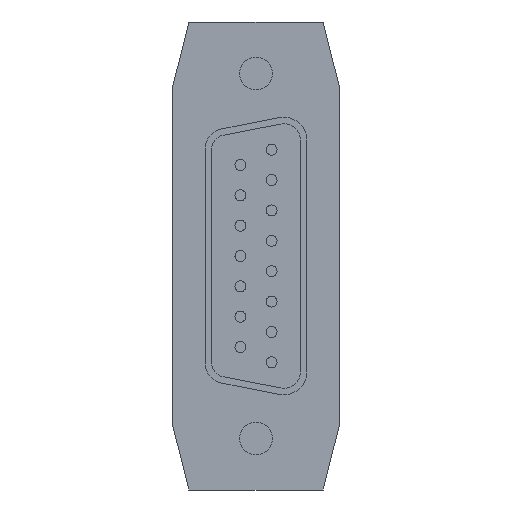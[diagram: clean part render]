
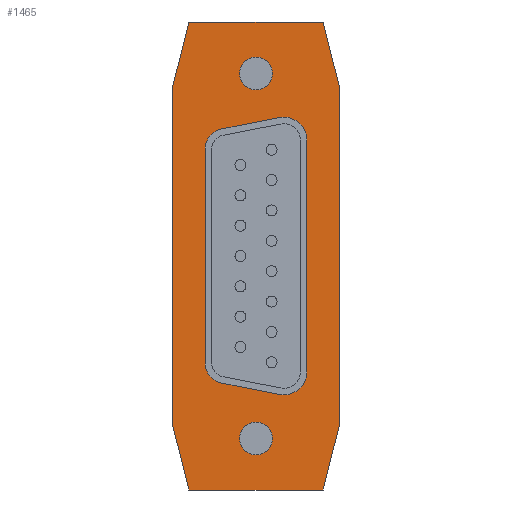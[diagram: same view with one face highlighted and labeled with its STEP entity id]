
A CAD part, left-side view. The second image highlights one B-rep face of the part: STEP entity #1465.
In plain terms, the highlighted planar face has unit normal (-1, 0, 0) as drawn and (0, -1, 0) by its records, which use the part's own axes.
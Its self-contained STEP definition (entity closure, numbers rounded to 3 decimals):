
#52=DIRECTION('',(-0.97,0.,0.243));
#53=VECTOR('',#52,6.082);
#54=CARTESIAN_POINT('',(-15.45,0.,-7.6));
#55=LINE('',#54,#53);
#56=DIRECTION('',(0.,0.,1.));
#57=VECTOR('',#56,12.25);
#58=CARTESIAN_POINT('',(-21.35,0.,-6.125));
#59=LINE('',#58,#57);
#60=DIRECTION('',(0.97,0.,0.243));
#61=VECTOR('',#60,6.082);
#62=CARTESIAN_POINT('',(-21.35,0.,6.125));
#63=LINE('',#62,#61);
#64=DIRECTION('',(1.,0.,0.));
#65=VECTOR('',#64,30.9);
#66=CARTESIAN_POINT('',(-15.45,0.,7.6));
#67=LINE('',#66,#65);
#68=DIRECTION('',(0.97,0.,-0.243));
#69=VECTOR('',#68,6.082);
#70=CARTESIAN_POINT('',(15.45,0.,7.6));
#71=LINE('',#70,#69);
#72=DIRECTION('',(0.,0.,-1.));
#73=VECTOR('',#72,12.25);
#74=CARTESIAN_POINT('',(21.35,0.,6.125));
#75=LINE('',#74,#73);
#76=DIRECTION('',(-0.97,0.,-0.243));
#77=VECTOR('',#76,6.082);
#78=CARTESIAN_POINT('',(21.35,0.,-6.125));
#79=LINE('',#78,#77);
#80=DIRECTION('',(-1.,0.,0.));
#81=VECTOR('',#80,30.9);
#82=CARTESIAN_POINT('',(15.45,0.,-7.6));
#83=LINE('',#82,#81);
#84=DIRECTION('',(0.191,0.,-0.982));
#85=VECTOR('',#84,5.36);
#86=CARTESIAN_POINT('',(-12.628,0.,2.149));
#87=LINE('',#86,#85);
#88=CARTESIAN_POINT('',(-9.74,0.,-2.75));
#89=DIRECTION('',(0.,-1.,0.));
#90=DIRECTION('',(-0.982,0.,-0.191));
#91=AXIS2_PLACEMENT_3D('',#88,#89,#90);
#93=DIRECTION('',(1.,0.,0.));
#94=VECTOR('',#93,19.48);
#95=CARTESIAN_POINT('',(-9.74,0.,-4.65));
#96=LINE('',#95,#94);
#97=CARTESIAN_POINT('',(9.74,0.,-2.75));
#98=DIRECTION('',(0.,-1.,0.));
#99=DIRECTION('',(0.,0.,-1.));
#100=AXIS2_PLACEMENT_3D('',#97,#98,#99);
#102=DIRECTION('',(0.191,0.,0.982));
#103=VECTOR('',#102,5.36);
#104=CARTESIAN_POINT('',(11.605,0.,-3.113));
#105=LINE('',#104,#103);
#106=CARTESIAN_POINT('',(10.566,0.,2.55));
#107=DIRECTION('',(0.,-1.,0.));
#108=DIRECTION('',(0.982,0.,-0.191));
#109=AXIS2_PLACEMENT_3D('',#106,#107,#108);
#111=DIRECTION('',(-1.,0.,0.));
#112=VECTOR('',#111,21.133);
#113=CARTESIAN_POINT('',(10.566,0.,4.65));
#114=LINE('',#113,#112);
#115=CARTESIAN_POINT('',(-10.566,0.,2.55));
#116=DIRECTION('',(0.,-1.,0.));
#117=DIRECTION('',(0.,0.,1.));
#118=AXIS2_PLACEMENT_3D('',#115,#116,#117);
#120=CARTESIAN_POINT('',(-16.65,0.,0.));
#121=DIRECTION('',(0.,1.,0.));
#122=DIRECTION('',(1.,0.,0.));
#123=AXIS2_PLACEMENT_3D('',#120,#121,#122);
#125=CARTESIAN_POINT('',(-16.65,0.,0.));
#126=DIRECTION('',(0.,1.,0.));
#127=DIRECTION('',(-1.,0.,0.));
#128=AXIS2_PLACEMENT_3D('',#125,#126,#127);
#130=CARTESIAN_POINT('',(16.65,0.,0.));
#131=DIRECTION('',(0.,-1.,0.));
#132=DIRECTION('',(-1.,0.,0.));
#133=AXIS2_PLACEMENT_3D('',#130,#131,#132);
#135=CARTESIAN_POINT('',(16.65,0.,0.));
#136=DIRECTION('',(0.,-1.,0.));
#137=DIRECTION('',(1.,0.,0.));
#138=AXIS2_PLACEMENT_3D('',#135,#136,#137);
#1100=CARTESIAN_POINT('',(-15.45,0.,-7.6));
#1101=CARTESIAN_POINT('',(-21.35,0.,-6.125));
#1102=VERTEX_POINT('',#1100);
#1103=VERTEX_POINT('',#1101);
#1104=CARTESIAN_POINT('',(-21.35,0.,6.125));
#1105=VERTEX_POINT('',#1104);
#1106=CARTESIAN_POINT('',(-15.45,0.,7.6));
#1107=VERTEX_POINT('',#1106);
#1108=CARTESIAN_POINT('',(15.45,0.,7.6));
#1109=VERTEX_POINT('',#1108);
#1110=CARTESIAN_POINT('',(21.35,0.,6.125));
#1111=VERTEX_POINT('',#1110);
#1112=CARTESIAN_POINT('',(21.35,0.,-6.125));
#1113=VERTEX_POINT('',#1112);
#1114=CARTESIAN_POINT('',(15.45,0.,-7.6));
#1115=VERTEX_POINT('',#1114);
#1148=CARTESIAN_POINT('',(-12.628,0.,2.149));
#1149=CARTESIAN_POINT('',(-11.605,0.,-3.113));
#1150=VERTEX_POINT('',#1148);
#1151=VERTEX_POINT('',#1149);
#1152=CARTESIAN_POINT('',(-9.74,0.,-4.65));
#1153=CARTESIAN_POINT('',(9.74,0.,-4.65));
#1154=VERTEX_POINT('',#1152);
#1155=VERTEX_POINT('',#1153);
#1156=CARTESIAN_POINT('',(11.605,0.,-3.113));
#1157=CARTESIAN_POINT('',(12.628,0.,2.149));
#1158=VERTEX_POINT('',#1156);
#1159=VERTEX_POINT('',#1157);
#1160=CARTESIAN_POINT('',(10.566,0.,4.65));
#1161=CARTESIAN_POINT('',(-10.566,0.,4.65));
#1162=VERTEX_POINT('',#1160);
#1163=VERTEX_POINT('',#1161);
#1272=CARTESIAN_POINT('',(-15.15,0.,0.));
#1273=CARTESIAN_POINT('',(-18.15,0.,0.));
#1274=VERTEX_POINT('',#1272);
#1275=VERTEX_POINT('',#1273);
#1320=CARTESIAN_POINT('',(15.15,0.,0.));
#1321=CARTESIAN_POINT('',(18.15,0.,0.));
#1322=VERTEX_POINT('',#1320);
#1323=VERTEX_POINT('',#1321);
#1412=CARTESIAN_POINT('',(0.,0.,0.));
#1413=DIRECTION('',(0.,1.,0.));
#1414=DIRECTION('',(1.,0.,0.));
#1415=AXIS2_PLACEMENT_3D('',#1412,#1413,#1414);
#1416=PLANE('',#1415);
#1418=ORIENTED_EDGE('',*,*,#1417,.T.);
#1420=ORIENTED_EDGE('',*,*,#1419,.T.);
#1422=ORIENTED_EDGE('',*,*,#1421,.T.);
#1424=ORIENTED_EDGE('',*,*,#1423,.T.);
#1426=ORIENTED_EDGE('',*,*,#1425,.T.);
#1428=ORIENTED_EDGE('',*,*,#1427,.T.);
#1430=ORIENTED_EDGE('',*,*,#1429,.T.);
#1432=ORIENTED_EDGE('',*,*,#1431,.T.);
#1433=EDGE_LOOP('',(#1418,#1420,#1422,#1424,#1426,#1428,#1430,#1432));
#1434=FACE_OUTER_BOUND('',#1433,.F.);
#1436=ORIENTED_EDGE('',*,*,#1435,.T.);
#1438=ORIENTED_EDGE('',*,*,#1437,.T.);
#1440=ORIENTED_EDGE('',*,*,#1439,.T.);
#1442=ORIENTED_EDGE('',*,*,#1441,.T.);
#1444=ORIENTED_EDGE('',*,*,#1443,.T.);
#1446=ORIENTED_EDGE('',*,*,#1445,.T.);
#1448=ORIENTED_EDGE('',*,*,#1447,.T.);
#1450=ORIENTED_EDGE('',*,*,#1449,.T.);
#1451=EDGE_LOOP('',(#1436,#1438,#1440,#1442,#1444,#1446,#1448,#1450));
#1452=FACE_BOUND('',#1451,.F.);
#1454=ORIENTED_EDGE('',*,*,#1453,.F.);
#1456=ORIENTED_EDGE('',*,*,#1455,.F.);
#1457=EDGE_LOOP('',(#1454,#1456));
#1458=FACE_BOUND('',#1457,.F.);
#1460=ORIENTED_EDGE('',*,*,#1459,.T.);
#1462=ORIENTED_EDGE('',*,*,#1461,.T.);
#1463=EDGE_LOOP('',(#1460,#1462));
#1464=FACE_BOUND('',#1463,.F.);
#1465=ADVANCED_FACE('',(#1434,#1452,#1458,#1464),#1416,.F.);
#92=CIRCLE('',#91,1.9);
#101=CIRCLE('',#100,1.9);
#110=CIRCLE('',#109,2.1);
#119=CIRCLE('',#118,2.1);
#124=CIRCLE('',#123,1.5);
#129=CIRCLE('',#128,1.5);
#134=CIRCLE('',#133,1.5);
#139=CIRCLE('',#138,1.5);
#1417=EDGE_CURVE('',#1102,#1103,#55,.T.);
#1419=EDGE_CURVE('',#1103,#1105,#59,.T.);
#1421=EDGE_CURVE('',#1105,#1107,#63,.T.);
#1423=EDGE_CURVE('',#1107,#1109,#67,.T.);
#1425=EDGE_CURVE('',#1109,#1111,#71,.T.);
#1427=EDGE_CURVE('',#1111,#1113,#75,.T.);
#1429=EDGE_CURVE('',#1113,#1115,#79,.T.);
#1431=EDGE_CURVE('',#1115,#1102,#83,.T.);
#1435=EDGE_CURVE('',#1150,#1151,#87,.T.);
#1437=EDGE_CURVE('',#1151,#1154,#92,.T.);
#1439=EDGE_CURVE('',#1154,#1155,#96,.T.);
#1441=EDGE_CURVE('',#1155,#1158,#101,.T.);
#1443=EDGE_CURVE('',#1158,#1159,#105,.T.);
#1445=EDGE_CURVE('',#1159,#1162,#110,.T.);
#1447=EDGE_CURVE('',#1162,#1163,#114,.T.);
#1449=EDGE_CURVE('',#1163,#1150,#119,.T.);
#1453=EDGE_CURVE('',#1274,#1275,#124,.T.);
#1455=EDGE_CURVE('',#1275,#1274,#129,.T.);
#1459=EDGE_CURVE('',#1322,#1323,#134,.T.);
#1461=EDGE_CURVE('',#1323,#1322,#139,.T.);
